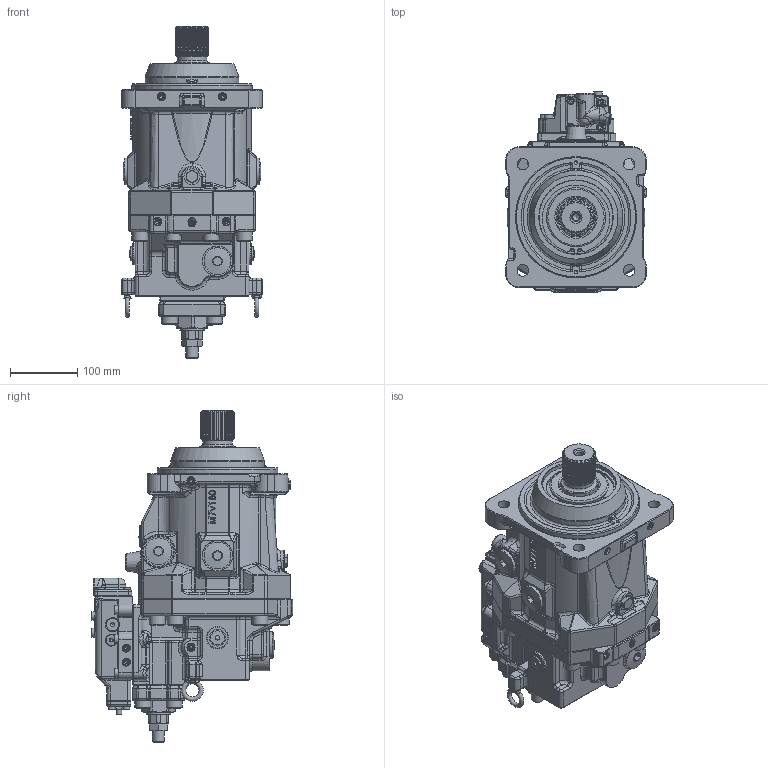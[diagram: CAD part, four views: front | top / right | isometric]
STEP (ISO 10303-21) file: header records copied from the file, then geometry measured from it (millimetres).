
FILE_DESCRIPTION(/* description */ (''),/* implementation_level */ '2;1');
FILE_NAME(/* name */ 'M7V160AC48-AA1H#XXXN-01.stp',/* time_stamp */ '2025-12-17T13:55:42Z',/* author */ ('Sjolliffe'),/* organization */ (''),/* preprocessor_version */ 'ST-DEVELOPER v20',/* originating_system */ 'Autodesk Inventor 2024',/* authorisation */ '');
FILE_SCHEMA (('CONFIG_CONTROL_DESIGN'));
Products named in the file (1): M7V160AC48-AA1H#XXXN-01
Bounding box: 210 x 300 x 495.1 mm (x, y, z)
Volume: 11237749.7 mm3; surface area: 493782.1 mm2
Topology: 1 solids, 1 shells, 3945 faces, 9990 edges, 6144 vertices
Faces by surface type: plane 1584, cylinder 1211, bspline 572, cone 323, torus 180, sphere 75
Full cylindrical faces by diameter (mm): 3 x2, 4 x1, 4.917 x2, 6 x1, 8 x1, 8.376 x2, 9.4 x16, 10 x9, 10.106 x1, 11 x8, 11.8 x1, 11.835 x8, 12 x14, 13 x6, 14 x6, 16 x2, 17.5 x5, 18 x3, 19 x1, 21 x3, 24 x14, 25 x2, 26 x12, 32 x2, 33 x2, 36 x1, 40 x5, 44.6 x1, 45 x4, 52 x1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
Entity records: 141460 total; most frequent: CARTESIAN_POINT 46494, ORIENTED_EDGE 19676, DIRECTION 18595, EDGE_CURVE 9838, AXIS2_PLACEMENT_3D 6856, VERTEX_POINT 6137, LINE 4883, VECTOR 4883
